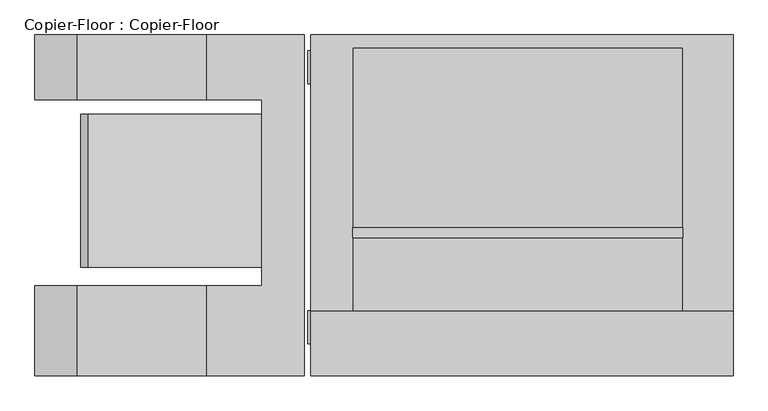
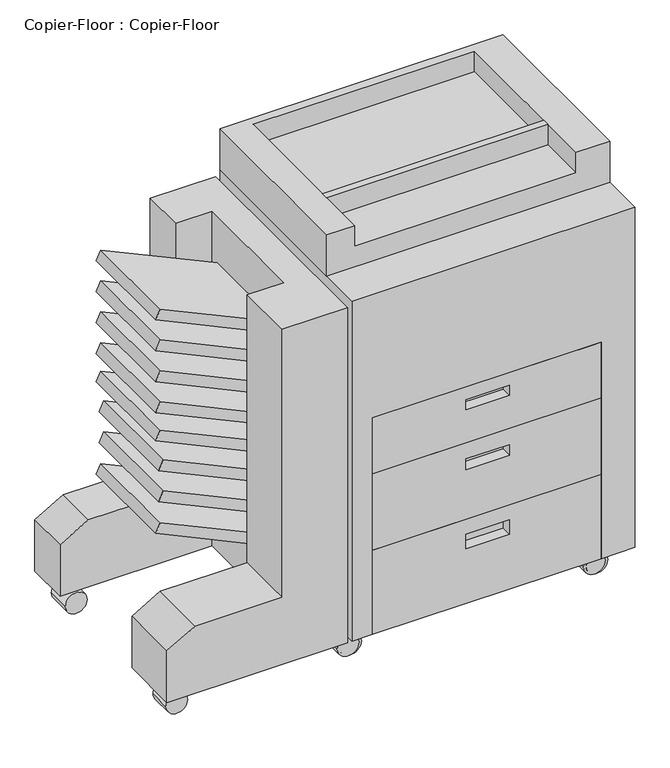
"""IFC4 building model written with IfcOpenShell, lengths in millimetres: proxy geometry, Copier-Floor : Copier-Floor."""

import ifcopenshell
import ifcopenshell.guid

model = None  # the IFC model being written
_history = None  # IfcOwnerHistory: only IFC2X3 demands one
_inside = {}  # id of a spatial element -> (the spatial element, [elements in it])
_under = {}  # id of a project, library or spatial element -> (it, [spatial elements below it])
_declared = {}  # id of a project -> (the project, [libraries it declares])
_typed = {}  # id of a type object -> (the type object, [elements of that type])
_made_of = {}  # id of a material, layer set ... -> (it, [elements and type objects made of it])


def new_model(schema):
    """Start an empty IFC model of exactly this schema.

    Asked for "IFC4X3", IfcOpenShell would pick the latest addendum, in which some entities
    have other attributes; the version numbers below select the first issue.
    IFC2X3 requires an IfcOwnerHistory on every rooted entity: one is made here for all.
    """
    global model, _history
    if schema == "IFC4X3":
        model = ifcopenshell.file(schema_version=(4, 3, 0, 0))
    else:
        model = ifcopenshell.file(schema=schema)
    _inside.clear()
    _under.clear()
    _declared.clear()
    _typed.clear()
    _made_of.clear()
    _history = None
    if model.schema == "IFC2X3":
        org = make("IfcOrganization", Name="unknown")
        user = make(
            "IfcPersonAndOrganization",
            ThePerson=make("IfcPerson", FamilyName="unknown"),
            TheOrganization=org,
        )
        app = make(
            "IfcApplication",
            ApplicationDeveloper=org,
            Version="unknown",
            ApplicationFullName="unknown",
            ApplicationIdentifier="unknown",
        )
        _history = make(
            "IfcOwnerHistory",
            OwningUser=user,
            OwningApplication=app,
            ChangeAction="ADDED",
            CreationDate=0,
        )
    return model


def make(cls, **values):
    """One entity of the class cls with the attributes given. An attribute that is None is left unset."""
    return model.create_entity(
        cls, **{name: value for name, value in values.items() if value is not None}
    )


def rooted(cls, **values):
    """An entity with a GlobalId (a new one), such as an element, a storey or a relation."""
    return make(cls, GlobalId=ifcopenshell.guid.new(), OwnerHistory=_history, **values)


def si_unit(unit_type, name, prefix=None):
    """IfcSIUnit, for example si_unit("LENGTHUNIT", "METRE", prefix="MILLI")."""
    return make("IfcSIUnit", UnitType=unit_type, Prefix=prefix, Name=name)


def assignment(units):
    """IfcUnitAssignment: the units of a project."""
    return None if units is None else make("IfcUnitAssignment", Units=units)


def point(xyz):
    """IfcCartesianPoint."""
    return None if xyz is None else make("IfcCartesianPoint", Coordinates=xyz)


def direction(xyz):
    """IfcDirection."""
    return None if xyz is None else make("IfcDirection", DirectionRatios=xyz)


def frame(location, z_axis=None, x_axis=None):
    """IfcAxis2Placement3D, a coordinate frame: its origin and axes. An axis left out is left unset."""
    return make(
        "IfcAxis2Placement3D",
        Location=point(location),
        Axis=direction(z_axis),
        RefDirection=direction(x_axis),
    )


def frame_2d(location, x_axis=None):
    """IfcAxis2Placement2D, a coordinate frame in the plane: its origin and x axis."""
    return make(
        "IfcAxis2Placement2D", Location=point(location), RefDirection=direction(x_axis)
    )


def origin():
    """The frame at (0, 0, 0) with its axes left unset."""
    return frame((0.0, 0.0, 0.0))


def place(relative_to, where):
    """IfcLocalPlacement: puts the frame where relative to a parent placement (None: the world)."""
    return make(
        "IfcLocalPlacement", PlacementRelTo=relative_to, RelativePlacement=where
    )


def context(
    kind, dimensions, precision=None, world=None, true_north=None, identifier=None
):
    """IfcGeometricRepresentationContext, for example the 3D "Model" context."""
    return make(
        "IfcGeometricRepresentationContext",
        ContextIdentifier=identifier,
        ContextType=kind,
        CoordinateSpaceDimension=dimensions,
        Precision=precision,
        WorldCoordinateSystem=world,
        TrueNorth=true_north,
    )


def project(units=None, contexts=None):
    """IfcProject with its units and contexts."""
    return rooted(
        "IfcProject",
        Name="project",
        RepresentationContexts=contexts,
        UnitsInContext=assignment(units),
    )


def spatial(cls, under=None, at=None, **own):
    """A site, building, storey or space (cls), placed at a placement, below another one or the project."""
    s = rooted(cls, ObjectPlacement=at, **own)
    if under is not None:
        _under.setdefault(under.id(), (under, []))[1].append(s)
    return s


def polyline(points):
    """IfcPolyline through the points."""
    return make("IfcPolyline", Points=[point(p) for p in points])


def circle_curve(where, radius):
    """IfcCircle in the frame where."""
    return make("IfcCircle", Position=where, Radius=radius)


def trimmed(basis, trim1, trim2, sense, master):
    """IfcTrimmedCurve: the piece of a basis curve between two trims."""
    return make(
        "IfcTrimmedCurve",
        BasisCurve=basis,
        Trim1=trim1,
        Trim2=trim2,
        SenseAgreement=sense,
        MasterRepresentation=master,
    )


def segment(curve, same_sense, transition):
    """IfcCompositeCurveSegment."""
    return make(
        "IfcCompositeCurveSegment",
        Transition=transition,
        SameSense=same_sense,
        ParentCurve=curve,
    )


def composite_curve(segments, self_intersect=None):
    """IfcCompositeCurve: segments joined end to end."""
    return make("IfcCompositeCurve", Segments=segments, SelfIntersect=self_intersect)


def outline(outer, holes=None, kind="AREA"):
    """IfcArbitraryClosedProfileDef: a profile drawn as a closed curve; with holes, ...WithVoids."""
    if holes is None:
        return make("IfcArbitraryClosedProfileDef", ProfileType=kind, OuterCurve=outer)
    return make(
        "IfcArbitraryProfileDefWithVoids",
        ProfileType=kind,
        OuterCurve=outer,
        InnerCurves=holes,
    )


def extrude(swept, where, along, depth):
    """IfcExtrudedAreaSolid: the profile swept, set in the frame where, extruded along a direction by depth."""
    return make(
        "IfcExtrudedAreaSolid",
        SweptArea=swept,
        Position=where,
        ExtrudedDirection=direction(along),
        Depth=depth,
    )


def faces_of(points, faces, orient=None, outer=None):
    """IfcFace entities. A face is a list of loops; a loop is a list of indices into points, from 0.

    orient and outer hold one flag for each loop. By default every Orientation is true, the
    first loop of a face is its IfcFaceOuterBound and the others are IfcFaceBound.
    """
    made = []
    for i, loops in enumerate(faces):
        bounds = []
        for j, loop in enumerate(loops):
            is_outer = j == 0 if outer is None else outer[i][j]
            bounds.append(
                make(
                    "IfcFaceOuterBound" if is_outer else "IfcFaceBound",
                    Bound=make("IfcPolyLoop", Polygon=[points[k] for k in loop]),
                    Orientation=True if orient is None else orient[i][j],
                )
            )
        made.append(make("IfcFace", Bounds=bounds))
    return made


def faceted_brep(points, faces, orient=None, outer=None, voids=None):
    """IfcFacetedBrep: a solid bounded by flat faces; with voids (closed shells), ...WithVoids."""
    shared = [point(p) for p in points]
    hull = make("IfcClosedShell", CfsFaces=faces_of(shared, faces, orient, outer))
    if voids is None:
        return make("IfcFacetedBrep", Outer=hull)
    return make(
        "IfcFacetedBrepWithVoids",
        Outer=hull,
        Voids=[
            make(cls, CfsFaces=faces_of(shared, fs, o, b)) for cls, fs, o, b in voids
        ],
    )


def shape(context_of_items, identifier, shape_type, items):
    """IfcShapeRepresentation: the items that make up one representation, for example the "Body"."""
    return make(
        "IfcShapeRepresentation",
        ContextOfItems=context_of_items,
        RepresentationIdentifier=identifier,
        RepresentationType=shape_type,
        Items=items,
    )


def source(mapping_origin, context_of_items, identifier, shape_type, items):
    """IfcRepresentationMap: a shape defined once, which mapped items show again and again."""
    return make(
        "IfcRepresentationMap",
        MappingOrigin=mapping_origin,
        MappedRepresentation=shape(context_of_items, identifier, shape_type, items),
    )


def transform(
    local_origin,
    x_axis=None,
    y_axis=None,
    z_axis=None,
    scale=None,
    scale2=None,
    scale3=None,
    uniform=True,
):
    """IfcCartesianTransformationOperator3D, or its non-uniform kind. x_axis, y_axis, z_axis: its Axis1, 2, 3."""
    if uniform:
        return make(
            "IfcCartesianTransformationOperator3D",
            Axis1=direction(x_axis),
            Axis2=direction(y_axis),
            LocalOrigin=point(local_origin),
            Scale=scale,
            Axis3=direction(z_axis),
        )
    return make(
        "IfcCartesianTransformationOperator3DnonUniform",
        Axis1=direction(x_axis),
        Axis2=direction(y_axis),
        LocalOrigin=point(local_origin),
        Scale=scale,
        Axis3=direction(z_axis),
        Scale2=scale2,
        Scale3=scale3,
    )


def mapped(mapping_source, mapping_target):
    """IfcMappedItem: shows the shape of a source again, moved by a transform."""
    return make(
        "IfcMappedItem", MappingSource=mapping_source, MappingTarget=mapping_target
    )


def made_of(thing, what):
    """Note that an element or type object is made of a material, layer set ...; save() writes the relation."""
    if what is not None:
        _made_of.setdefault(what.id(), (what, []))[1].append(thing)
    return thing


def element(
    cls,
    number,
    at=None,
    inside=None,
    cuts=None,
    type_object=None,
    material=None,
    context=None,
    identifier="Body",
    shape_type=None,
    held_by="IfcProductDefinitionShape",
    body=None,
    shapes=None,
    **own,
):
    """One element of the class cls, such as IfcWall. Its Tag is "e" and its number.

    at: its placement. inside: the storey or other place that contains it. cuts: it is an
    opening in that element (IfcRelVoidsElement). A single representation is given by context,
    identifier, shape_type and body (its items); several are given by shapes. held_by: the class
    of the entity that holds the representations. save() writes the other relations.
    """
    e = rooted(cls, Tag="e%d" % number, ObjectPlacement=at, **own)
    if body is not None:
        shapes = [shape(context, identifier, shape_type, body)]
    if shapes is not None:
        e.Representation = make(held_by, Representations=shapes)
    if inside is not None:
        _inside.setdefault(inside.id(), (inside, []))[1].append(e)
    if cuts is not None:
        rooted(
            "IfcRelVoidsElement", RelatingBuildingElement=cuts, RelatedOpeningElement=e
        )
    if type_object is not None:
        _typed.setdefault(type_object.id(), (type_object, []))[1].append(e)
    return made_of(e, material)


def aggregate(whole, parts):
    """IfcRelAggregates: a whole, such as a stair, and the parts it consists of."""
    return rooted("IfcRelAggregates", RelatingObject=whole, RelatedObjects=parts)


def save(model, path):
    """Write the relations noted so far, then the file.

    IfcRelAggregates (storeys below a building ...), IfcRelContainedInSpatialStructure (elements
    in a storey), IfcRelDefinesByType, IfcRelAssociatesMaterial and IfcRelDeclares: one each for
    every whole, place, type object, material and project.
    """
    for whole, parts in _under.values():
        aggregate(whole, parts)
    for where, things in _inside.values():
        rooted(
            "IfcRelContainedInSpatialStructure",
            RelatedElements=things,
            RelatingStructure=where,
        )
    for kind, things in _typed.values():
        rooted("IfcRelDefinesByType", RelatedObjects=things, RelatingType=kind)
    for what, things in _made_of.values():
        rooted("IfcRelAssociatesMaterial", RelatedObjects=things, RelatingMaterial=what)
    for by, libraries in _declared.values():
        rooted("IfcRelDeclares", RelatingContext=by, RelatedDefinitions=libraries)
    model.write(path)


def copier_floor_copier_floor_a40bf9c1(model_context):
    return source(origin(), model_context, "Body", "SolidModel", [
        extrude(outline(polyline([(387.7567294, -681.6535349), (364.7365116, -692.3880388), (232.9041289, -409.6725817), (260.929928, -409.6725817), (387.7567294, -681.6535349)])), frame((0.0, -72.1685532, 0.0), z_axis=(0.0, 1.0, 0.0), x_axis=(0.0, 0.0, 1.0)), (0.0, 0.0, 1.0), 239.8222339),
        extrude(outline(polyline([(463.6667654, -675.0122673), (440.6465476, -685.7467712), (311.9110388, -409.6725817), (339.9368379, -409.6725817), (463.6667654, -675.0122673)])), frame((0.0, -72.1685532, 0.0), z_axis=(0.0, 1.0, 0.0), x_axis=(0.0, 0.0, 1.0)), (0.0, 0.0, 1.0), 239.8222339),
        extrude(outline(polyline([(539.8667654, -675.0122673), (516.8465476, -685.7467712), (388.1110388, -409.6725817), (416.1368379, -409.6725817), (539.8667654, -675.0122673)])), frame((0.0, -72.1685532, 0.0), z_axis=(0.0, 1.0, 0.0), x_axis=(0.0, 0.0, 1.0)), (0.0, 0.0, 1.0), 239.8222339),
        extrude(outline(polyline([(914.2268014, -681.6535349), (891.2065836, -692.3880388), (759.3742009, -409.6725817), (787.4, -409.6725817), (914.2268014, -681.6535349)])), frame((0.0, -72.1685532, 0.0), z_axis=(0.0, 1.0, 0.0), x_axis=(0.0, 0.0, 1.0)), (0.0, 0.0, 1.0), 239.8222339),
        extrude(outline(polyline([(838.0268014, -681.6535349), (815.0065836, -692.3880388), (683.1742009, -409.6725817), (711.2, -409.6725817), (838.0268014, -681.6535349)])), frame((0.0, -72.1685532, 0.0), z_axis=(0.0, 1.0, 0.0), x_axis=(0.0, 0.0, 1.0)), (0.0, 0.0, 1.0), 239.8222339),
        extrude(outline(polyline([(615.7768014, -681.6535349), (592.7565836, -692.3880388), (460.9242009, -409.6725817), (488.95, -409.6725817), (615.7768014, -681.6535349)])), frame((0.0, -72.1685532, 0.0), z_axis=(0.0, 1.0, 0.0), x_axis=(0.0, 0.0, 1.0)), (0.0, 0.0, 1.0), 239.8222339),
        extrude(outline(polyline([(685.6268014, -681.6535349), (662.6065836, -692.3880388), (530.7742009, -409.6725817), (558.8, -409.6725817), (685.6268014, -681.6535349)])), frame((0.0, -72.1685532, 0.0), z_axis=(0.0, 1.0, 0.0), x_axis=(0.0, 0.0, 1.0)), (0.0, 0.0, 1.0), 239.8222339),
        extrude(outline(polyline([(761.8268014, -681.6535349), (738.8065836, -692.3880388), (606.9742009, -409.6725817), (635.0, -409.6725817), (761.8268014, -681.6535349)])), frame((0.0, -72.1685532, 0.0), z_axis=(0.0, 1.0, 0.0), x_axis=(0.0, 0.0, 1.0)), (0.0, 0.0, 1.0), 239.8222339),
        extrude(outline(composite_curve([segment(trimmed(circle_curve(frame_2d((26.0668925, -711.8709821)), 25.4), [point((26.0668925, -737.2709821))], [point((26.0668925, -686.4709821))], False, "CARTESIAN"), True, "CONTINUOUS"), segment(trimmed(circle_curve(frame_2d((26.0668925, -711.8709821)), 25.4), [point((26.0668925, -686.4709821))], [point((26.0668925, -737.2709821))], False, "CARTESIAN"), True, "CONTINUOUS")], self_intersect=False)), frame((0.0, 215.1689468, 0.0), z_axis=(0.0, 1.0, 0.0), x_axis=(0.0, 0.0, 1.0)), (0.0, 0.0, 1.0), 55.9418879),
        extrude(outline(composite_curve([segment(trimmed(circle_curve(frame_2d((26.0668925, -711.8709821)), 25.4), [point((26.0668925, -737.2709821))], [point((26.0668925, -686.4709821))], False, "CARTESIAN"), True, "CONTINUOUS"), segment(trimmed(circle_curve(frame_2d((26.0668925, -711.8709821)), 25.4), [point((26.0668925, -686.4709821))], [point((26.0668925, -737.2709821))], False, "CARTESIAN"), True, "CONTINUOUS")], self_intersect=False)), frame((0.0, -191.2310532, 0.0), z_axis=(0.0, 1.0, 0.0), x_axis=(0.0, 0.0, 1.0)), (0.0, 0.0, 1.0), 51.3258053),
        faceted_brep([(-764.1654582, -242.0310532, 76.2), (-342.5743224, -242.0310532, 76.2), (-342.5743224, -242.0310532, 901.7), (-494.9743224, -242.0310532, 901.7), (-494.9743224, -242.0310532, 241.3), (-698.1743224, -242.0310532, 241.3), (-764.1654582, -242.0310532, 203.2), (-764.1654582, 291.3689468, 76.2), (-764.1654582, 291.3689468, 203.2), (-698.1743224, 291.3689468, 241.3), (-494.9743224, 291.3689468, 241.3), (-494.9743224, 291.3689468, 901.7), (-342.5743224, 291.3689468, 901.7), (-342.5743224, 291.3689468, 76.2), (-764.1654582, -100.8888364, 76.2), (-409.6725817, -100.8888364, 76.2), (-409.6725817, 189.7689468, 76.2), (-764.1654582, 189.7689468, 76.2), (-494.9743224, 189.7689468, 901.7), (-409.6725817, 189.7689468, 901.7), (-409.6725817, -100.8888364, 901.7), (-494.9743224, -100.8888364, 901.7), (-494.9743224, -100.8888364, 241.3), (-494.9743224, 189.7689468, 241.3), (-698.1743224, -100.8888364, 241.3), (-698.1743224, 189.7689468, 241.3), (-764.1654582, -100.8888364, 203.2), (-764.1654582, 189.7689468, 203.2)], [[[0, 1, 2, 3, 4, 5, 6]], [[7, 8, 9, 10, 11, 12, 13]], [[1, 0, 14, 15, 16, 17, 7, 13]], [[2, 1, 13, 12]], [[3, 2, 12, 11, 18, 19, 20, 21]], [[4, 3, 21, 22]], [[11, 10, 23, 18]], [[5, 4, 22, 24]], [[10, 9, 25, 23]], [[6, 5, 24, 26]], [[9, 8, 27, 25]], [[0, 6, 26, 14]], [[8, 7, 17, 27]], [[16, 19, 18, 23, 25, 27, 17]], [[20, 15, 14, 26, 24, 22, 21]], [[19, 16, 15, 20]]]),
        extrude(outline(composite_curve([segment(trimmed(circle_curve(frame_2d((27.9129458, -312.2555429)), 25.4), [point((27.9129458, -337.6555429))], [point((27.9129458, -286.8555429))], False, "CARTESIAN"), True, "CONTINUOUS"), segment(trimmed(circle_curve(frame_2d((27.9129458, -312.2555429)), 25.4), [point((27.9129458, -286.8555429))], [point((27.9129458, -337.6555429))], False, "CARTESIAN"), True, "CONTINUOUS")], self_intersect=False)), frame((0.0, 215.1689468, 0.0), z_axis=(0.0, 1.0, 0.0), x_axis=(0.0, 0.0, 1.0)), (0.0, 0.0, 1.0), 51.3258053),
        extrude(outline(composite_curve([segment(trimmed(circle_curve(frame_2d((27.9129458, 262.7398948)), 25.4), [point((27.9129458, 237.3398948))], [point((27.9129458, 288.1398948))], False, "CARTESIAN"), True, "CONTINUOUS"), segment(trimmed(circle_curve(frame_2d((27.9129458, 262.7398948)), 25.4), [point((27.9129458, 288.1398948))], [point((27.9129458, 237.3398948))], False, "CARTESIAN"), True, "CONTINUOUS")], self_intersect=False)), frame((0.0, 215.1689468, 0.0), z_axis=(0.0, 1.0, 0.0), x_axis=(0.0, 0.0, 1.0)), (0.0, 0.0, 1.0), 51.3258053),
        extrude(outline(composite_curve([segment(trimmed(circle_curve(frame_2d((27.9129458, -312.2555429)), 25.4), [point((27.9129458, -337.6555429))], [point((27.9129458, -286.8555429))], False, "CARTESIAN"), True, "CONTINUOUS"), segment(trimmed(circle_curve(frame_2d((27.9129458, -312.2555429)), 25.4), [point((27.9129458, -286.8555429))], [point((27.9129458, -337.6555429))], False, "CARTESIAN"), True, "CONTINUOUS")], self_intersect=False)), frame((0.0, -191.2310532, 0.0), z_axis=(0.0, 1.0, 0.0), x_axis=(0.0, 0.0, 1.0)), (0.0, 0.0, 1.0), 51.3258053),
        extrude(outline(composite_curve([segment(trimmed(circle_curve(frame_2d((27.9129458, 262.7398948)), 25.4), [point((27.9129458, 237.3398948))], [point((27.9129458, 288.1398948))], False, "CARTESIAN"), True, "CONTINUOUS"), segment(trimmed(circle_curve(frame_2d((27.9129458, 262.7398948)), 25.4), [point((27.9129458, 288.1398948))], [point((27.9129458, 237.3398948))], False, "CARTESIAN"), True, "CONTINUOUS")], self_intersect=False)), frame((0.0, -191.2310532, 0.0), z_axis=(0.0, 1.0, 0.0), x_axis=(0.0, 0.0, 1.0)), (0.0, 0.0, 1.0), 51.3258053),
        extrude(outline(composite_curve([segment(trimmed(circle_curve(frame_2d((27.9129458, -306.6302391)), 25.4), [point((27.9129458, -332.0302391))], [point((27.9129458, -281.2302391))], False, "CARTESIAN"), True, "CONTINUOUS"), segment(trimmed(circle_curve(frame_2d((27.9129458, -306.6302391)), 25.4), [point((27.9129458, -281.2302391))], [point((27.9129458, -332.0302391))], False, "CARTESIAN"), True, "CONTINUOUS")], self_intersect=False)), frame((0.0, -191.2310532, 0.0), z_axis=(0.0, 1.0, 0.0), x_axis=(0.0, 0.0, 1.0)), (0.0, 0.0, 1.0), 51.3258053),
        extrude(outline(composite_curve([segment(trimmed(circle_curve(frame_2d((27.9129458, 268.3651986)), 25.4), [point((27.9129458, 242.9651986))], [point((27.9129458, 293.7651986))], False, "CARTESIAN"), True, "CONTINUOUS"), segment(trimmed(circle_curve(frame_2d((27.9129458, 268.3651986)), 25.4), [point((27.9129458, 293.7651986))], [point((27.9129458, 242.9651986))], False, "CARTESIAN"), True, "CONTINUOUS")], self_intersect=False)), frame((0.0, -191.2310532, 0.0), z_axis=(0.0, 1.0, 0.0), x_axis=(0.0, 0.0, 1.0)), (0.0, 0.0, 1.0), 51.3258053),
        extrude(outline(polyline([(249.314028, -26.1310532), (-267.2959958, -26.1310532), (-267.2959958, -10.0577181), (249.314028, -10.0577181), (249.314028, -26.1310532)])), frame((0.0, 0.0, 965.2), z_axis=(0.0, 0.0, 1.0), x_axis=(1.0, 0.0, 0.0)), (0.0, 0.0, 1.0), 50.8),
        faceted_brep([(249.314028, -242.0310532, 472.3553727), (249.314028, -242.0310532, 609.6), (-284.085972, -242.0310532, 609.6), (-284.085972, -242.0310532, 472.3553727), (-66.7741493, -242.0310532, 578.8591447), (34.8258507, -242.0310532, 578.8591447), (34.8258507, -242.0310532, 553.4591447), (-66.7741493, -242.0310532, 553.4591447), (249.314028, -191.2310532, 472.3553727), (-284.085972, -191.2310532, 472.3553727), (-284.085972, -191.2310532, 609.6), (249.314028, -191.2310532, 609.6), (34.8258507, -216.6310532, 578.8591447), (-66.7741493, -216.6310532, 578.8591447), (-66.7741493, -216.6310532, 553.4591447), (34.8258507, -216.6310532, 553.4591447)], [[[0, 1, 2, 3], [4, 5, 6, 7]], [[8, 9, 10, 11]], [[1, 0, 8, 11]], [[2, 1, 11, 10]], [[3, 2, 10, 9]], [[0, 3, 9, 8]], [[12, 13, 14, 15]], [[13, 12, 5, 4]], [[14, 13, 4, 7]], [[15, 14, 7, 6]], [[12, 15, 6, 5]]]),
        faceted_brep([(249.314028, -242.0310532, 283.8723489), (249.314028, -242.0310532, 472.3553727), (-284.085972, -242.0310532, 472.3553727), (-284.085972, -242.0310532, 283.8723489), (-66.7741493, -242.0310532, 432.3774172), (34.8258507, -242.0310532, 432.3774172), (34.8258507, -242.0310532, 406.4), (-66.7741493, -242.0310532, 406.4), (249.314028, -191.2310532, 283.8723489), (-284.085972, -191.2310532, 283.8723489), (-284.085972, -191.2310532, 472.3553727), (249.314028, -191.2310532, 472.3553727), (34.8258507, -216.6310532, 432.3774172), (-66.7741493, -216.6310532, 432.3774172), (-66.7741493, -216.6310532, 406.4), (34.8258507, -216.6310532, 406.4)], [[[0, 1, 2, 3], [4, 5, 6, 7]], [[8, 9, 10, 11]], [[1, 0, 8, 11]], [[2, 1, 11, 10]], [[3, 2, 10, 9]], [[0, 3, 9, 8]], [[12, 13, 14, 15]], [[13, 12, 5, 4]], [[14, 13, 4, 7]], [[15, 14, 7, 6]], [[12, 15, 6, 5]]]),
        faceted_brep([(249.314028, -242.0310532, 76.2), (249.314028, -242.0310532, 283.8723489), (-284.085972, -242.0310532, 283.8723489), (-284.085972, -242.0310532, 76.2), (-66.7741493, -242.0310532, 246.5423898), (34.8258507, -242.0310532, 246.5423898), (34.8258507, -242.0310532, 211.1096445), (-66.7741493, -242.0310532, 211.1096445), (249.314028, -191.2310532, 76.2), (-284.085972, -191.2310532, 76.2), (-284.085972, -191.2310532, 283.8723489), (249.314028, -191.2310532, 283.8723489), (34.8258507, -216.6310532, 246.5423898), (-66.7741493, -216.6310532, 246.5423898), (-66.7741493, -216.6310532, 211.1096445), (34.8258507, -216.6310532, 211.1096445)], [[[0, 1, 2, 3], [4, 5, 6, 7]], [[8, 9, 10, 11]], [[1, 0, 8, 11]], [[2, 1, 11, 10]], [[3, 2, 10, 9]], [[0, 3, 9, 8]], [[12, 13, 14, 15]], [[13, 12, 5, 4]], [[14, 13, 4, 7]], [[15, 14, 7, 6]], [[12, 15, 6, 5]]]),
        faceted_brep([(328.0345418, 291.3689468, 1016.0), (-332.3654582, 291.3689468, 1016.0), (-332.3654582, -139.9052479, 1016.0), (-267.2959958, -139.9052479, 1016.0), (-267.2959958, 271.1108348, 1016.0), (249.314028, 271.1108348, 1016.0), (249.314028, -139.9052479, 1016.0), (328.0345418, -139.9052479, 1016.0), (328.0345418, 291.3689468, 914.4), (328.0345418, -139.9052479, 914.4), (-332.3654582, -139.9052479, 914.4), (-332.3654582, 291.3689468, 914.4), (249.314028, -139.9052479, 965.2), (-267.2959958, -139.9052479, 965.2), (249.314028, 271.1108348, 965.2), (-267.2959958, 271.1108348, 965.2)], [[[0, 1, 2, 3, 4, 5, 6, 7]], [[8, 9, 10, 11]], [[1, 0, 8, 11]], [[2, 1, 11, 10]], [[10, 9, 7, 6, 12, 13, 3, 2]], [[0, 7, 9, 8]], [[14, 15, 13, 12]], [[15, 14, 5, 4]], [[13, 15, 4, 3]], [[14, 12, 6, 5]]]),
        faceted_brep([(328.0345418, 291.3689468, 914.4), (-332.3654582, 291.3689468, 914.4), (-332.3654582, -242.0310532, 914.4), (328.0345418, -242.0310532, 914.4), (328.0345418, 291.3689468, 76.2), (328.0345418, -242.0310532, 76.2), (249.314028, -242.0310532, 76.2), (249.314028, -191.2310532, 76.2), (-284.085972, -191.2310532, 76.2), (-284.085972, -242.0310532, 76.2), (-332.3654582, -242.0310532, 76.2), (-332.3654582, 291.3689468, 76.2), (-284.085972, -242.0310532, 609.6), (249.314028, -242.0310532, 609.6), (-284.085972, -191.2310532, 609.6), (249.314028, -191.2310532, 609.6)], [[[0, 1, 2, 3]], [[4, 5, 6, 7, 8, 9, 10, 11]], [[1, 0, 4, 11]], [[2, 1, 11, 10]], [[3, 2, 10, 9, 12, 13, 6, 5]], [[0, 3, 5, 4]], [[14, 8, 7, 15]], [[8, 14, 12, 9]], [[15, 7, 6, 13]], [[14, 15, 13, 12]]]),
    ])


if __name__ == "__main__":
    model = new_model("IFC4")
    model_context = context("Model", 3, world=origin())
    ifc_project = project(units=[si_unit("LENGTHUNIT", "METRE", prefix="MILLI")], contexts=[model_context])
    site = spatial("IfcSite", under=ifc_project)
    building = spatial("IfcBuilding", under=site)
    placement = place(None, origin())
    copier_floor_copier_floor_shape = copier_floor_copier_floor_a40bf9c1(model_context)
    element("IfcBuildingElementProxy", 1, Name="Copier-Floor : Copier-Floor", ObjectType="Copier-Floor : Copier-Floor", at=placement, inside=building, context=model_context, shape_type="MappedRepresentation", body=[
        mapped(copier_floor_copier_floor_shape, transform((0.0, 0.0, 0.0), x_axis=(1.0, 0.0, 0.0), y_axis=(0.0, 1.0, 0.0), z_axis=(0.0, 0.0, 1.0))),
    ])
    save(model, "model.ifc")
